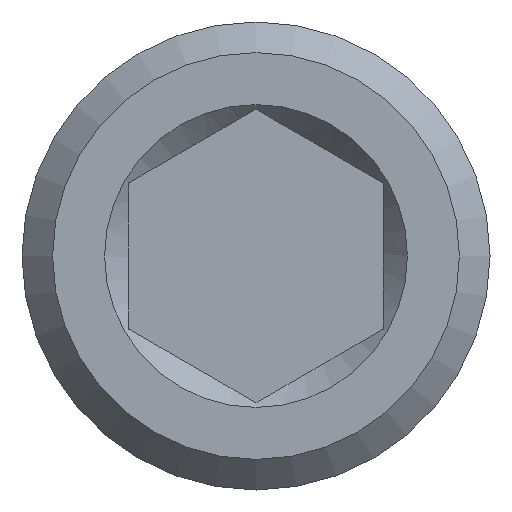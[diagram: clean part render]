
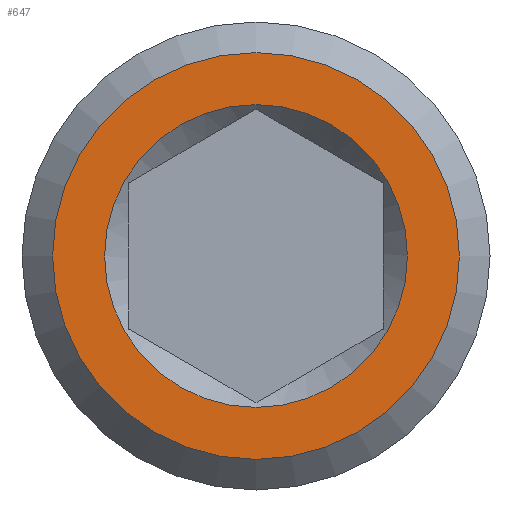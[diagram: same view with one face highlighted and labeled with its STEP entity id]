
A CAD part, front view. The second image highlights one B-rep face of the part: STEP entity #647.
In plain terms, the highlighted planar face has unit normal (0, -1, 0).
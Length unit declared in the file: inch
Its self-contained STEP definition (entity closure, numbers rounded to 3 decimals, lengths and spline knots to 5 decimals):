
#15=FACE_BOUND('',#156,.T.);
#79=CIRCLE('',#711,0.335);
#80=CIRCLE('',#713,0.45);
#118=FACE_OUTER_BOUND('',#155,.T.);
#155=EDGE_LOOP('',(#574));
#156=EDGE_LOOP('',(#575));
#303=VERTEX_POINT('',#1419);
#304=VERTEX_POINT('',#1423);
#395=EDGE_CURVE('',#303,#303,#79,.T.);
#396=EDGE_CURVE('',#304,#304,#80,.T.);
#574=ORIENTED_EDGE('',*,*,#396,.F.);
#575=ORIENTED_EDGE('',*,*,#395,.F.);
#613=PLANE('',#712);
#647=ADVANCED_FACE('',(#118,#15),#613,.T.);
#711=AXIS2_PLACEMENT_3D('',#1421,#855,#856);
#712=AXIS2_PLACEMENT_3D('',#1422,#857,#858);
#713=AXIS2_PLACEMENT_3D('',#1424,#859,#860);
#855=DIRECTION('center_axis',(0.,-1.,0.));
#856=DIRECTION('ref_axis',(0.,0.,1.));
#857=DIRECTION('center_axis',(0.,-1.,0.));
#858=DIRECTION('ref_axis',(0.,0.,-1.));
#859=DIRECTION('center_axis',(0.,1.,0.));
#860=DIRECTION('ref_axis',(0.,0.,1.));
#1419=CARTESIAN_POINT('',(0.,0.,-0.335));
#1421=CARTESIAN_POINT('Origin',(0.,0.,0.));
#1422=CARTESIAN_POINT('Origin',(0.,0.,-0.28));
#1423=CARTESIAN_POINT('',(0.,0.,-0.45));
#1424=CARTESIAN_POINT('Origin',(0.,0.,0.));
